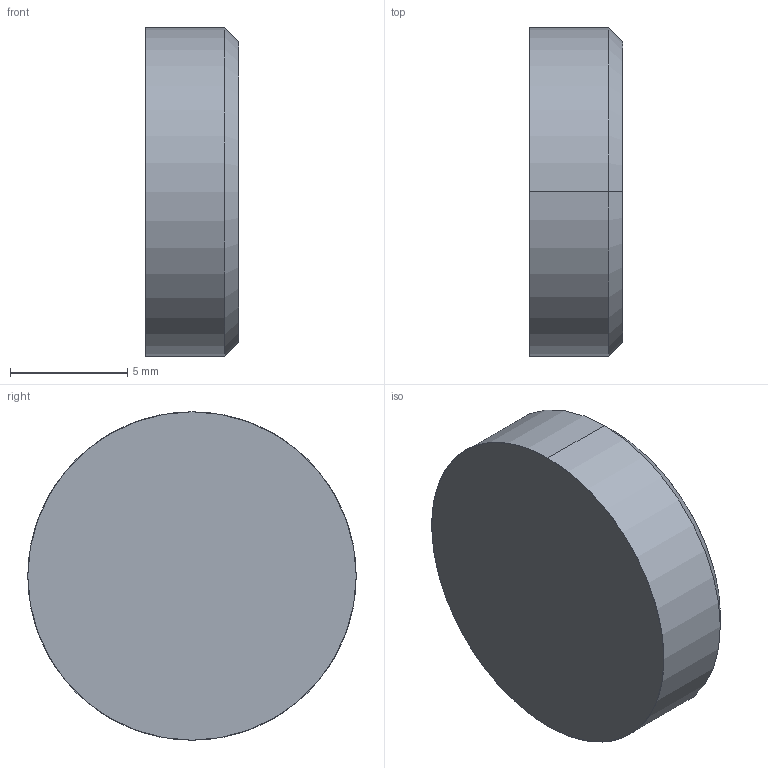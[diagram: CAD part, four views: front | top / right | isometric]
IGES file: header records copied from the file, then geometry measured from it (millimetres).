
Start section: Parasolid data in IGES format
Global section: file name: JZG010.igs; native system: Parasolid(11.1); preprocessor: Pariges 4.4; author: noname; organization: noname; date: 20050926.195046; units: millimetre
Bounding box: 4 x 14 x 14 mm (x, y, z)
Surface area: 519.8 mm2 (no closed solid volume)
Topology: 0 solids, 0 shells, 13 faces, 116 edges, 116 vertices
Faces by surface type: extrusion 9, revolution 4
